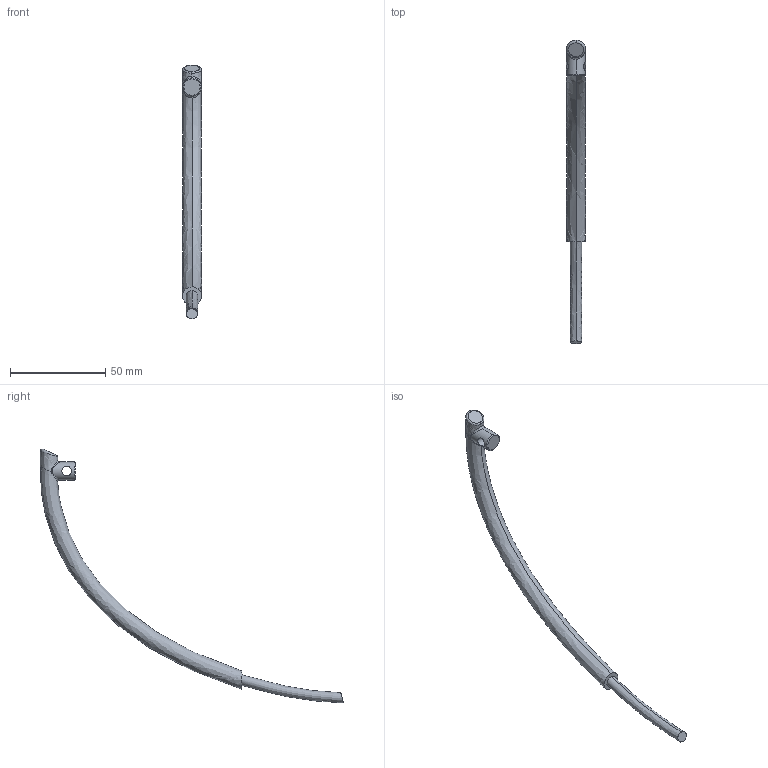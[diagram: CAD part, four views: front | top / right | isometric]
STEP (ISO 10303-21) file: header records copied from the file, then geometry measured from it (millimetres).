
FILE_DESCRIPTION (( 'STEP AP214' ), '1' );
FILE_NAME ('OnePlus_One_Swing_Stand_Base_P-Top.STEP', '2015-03-19T12:14:48', ( '' ), ( '' ), 'SwSTEP 2.0', 'SolidWorks 2014', '' );
FILE_SCHEMA (( 'AUTOMOTIVE_DESIGN' ));
Length unit declared in the file: millimetre
Products named in the file (1): OnePlus_One_Swing_Stand_Base_P-Top
Bounding box: 10 x 159 x 133.18 mm (x, y, z)
Volume: 13967.9 mm3; surface area: 6576.7 mm2
Topology: 1 solids, 1 shells, 20 faces, 46 edges, 29 vertices
Faces by surface type: bspline 10, cylinder 4, plane 4, torus 2
Entity records: 2702 total; most frequent: CARTESIAN_POINT 2292, ORIENTED_EDGE 92, DIRECTION 52, EDGE_CURVE 46, VERTEX_POINT 29, B_SPLINE_CURVE_WITH_KNOTS 28, AXIS2_PLACEMENT_3D 23, EDGE_LOOP 23
